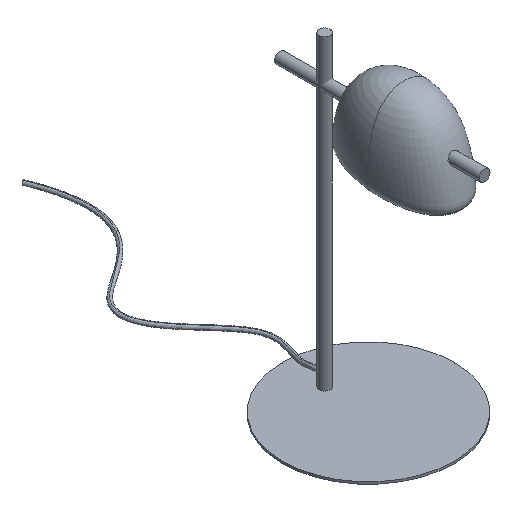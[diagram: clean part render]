
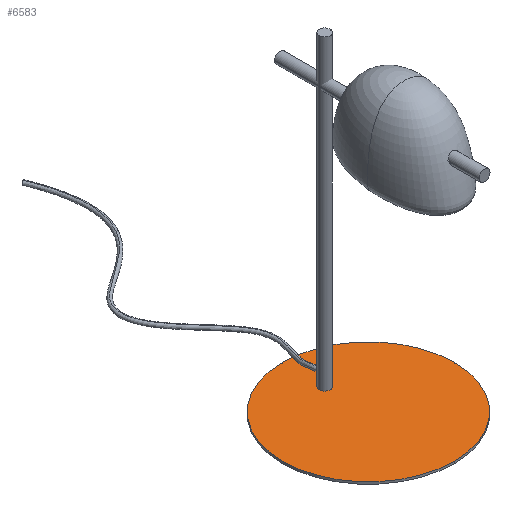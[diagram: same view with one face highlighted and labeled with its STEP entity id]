
A CAD part, isometric view. The second image highlights one B-rep face of the part: STEP entity #6583.
In plain terms, the highlighted planar face has unit normal (0, 0, 1).
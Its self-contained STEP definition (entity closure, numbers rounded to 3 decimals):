
#427 = CARTESIAN_POINT ( 'NONE',  ( 125., 0., 3. ) ) ;
#856 = EDGE_LOOP ( 'NONE', ( #7622, #6169, #1740 ) ) ;
#1215 = VERTEX_POINT ( 'NONE', #427 ) ;
#1469 = CARTESIAN_POINT ( 'NONE',  ( 0., 0., 3. ) ) ;
#1740 = ORIENTED_EDGE ( 'NONE', *, *, #3400, .T. ) ;
#1978 = CARTESIAN_POINT ( 'NONE',  ( 0., 0., 3. ) ) ;
#2488 = CARTESIAN_POINT ( 'NONE',  ( 0., 0., 3. ) ) ;
#2562 = CIRCLE ( 'NONE', #2905, 125. ) ;
#2905 = AXIS2_PLACEMENT_3D ( 'NONE', #1978, #7547, #3751 ) ;
#3400 = EDGE_CURVE ( 'NONE', #4657, #10018, #6401, .T. ) ;
#3614 = CARTESIAN_POINT ( 'NONE',  ( 0., -125., 3. ) ) ;
#3751 = DIRECTION ( 'NONE',  ( 0., -1., 0. ) ) ;
#3849 = EDGE_CURVE ( 'NONE', #1215, #4657, #2562, .T. ) ;
#4024 = CARTESIAN_POINT ( 'NONE',  ( -156.25, 156.25, 3. ) ) ;
#4657 = VERTEX_POINT ( 'NONE', #9057 ) ;
#4753 = DIRECTION ( 'NONE',  ( 1., 0., 0. ) ) ;
#5536 = FACE_OUTER_BOUND ( 'NONE', #856, .T. ) ;
#5626 = DIRECTION ( 'NONE',  ( 0., 0., 1. ) ) ;
#6169 = ORIENTED_EDGE ( 'NONE', *, *, #3849, .T. ) ;
#6267 = DIRECTION ( 'NONE',  ( 0., 0., 1. ) ) ;
#6401 = CIRCLE ( 'NONE', #9384, 125. ) ;
#6583 = ADVANCED_FACE ( 'NONE', ( #5536 ), #7968, .T. ) ;
#6903 = AXIS2_PLACEMENT_3D ( 'NONE', #2488, #5626, #7130 ) ;
#7130 = DIRECTION ( 'NONE',  ( 0., -1., 0. ) ) ;
#7547 = DIRECTION ( 'NONE',  ( 0., 0., 1. ) ) ;
#7622 = ORIENTED_EDGE ( 'NONE', *, *, #7857, .T. ) ;
#7857 = EDGE_CURVE ( 'NONE', #10018, #1215, #9393, .T. ) ;
#7968 = PLANE ( 'NONE',  #8554 ) ;
#8554 = AXIS2_PLACEMENT_3D ( 'NONE', #4024, #8700, #4753 ) ;
#8700 = DIRECTION ( 'NONE',  ( 0., 0., 1. ) ) ;
#9057 = CARTESIAN_POINT ( 'NONE',  ( 0., 125., 3. ) ) ;
#9384 = AXIS2_PLACEMENT_3D ( 'NONE', #1469, #6267, #9437 ) ;
#9393 = CIRCLE ( 'NONE', #6903, 125. ) ;
#9437 = DIRECTION ( 'NONE',  ( 0., 1., 0. ) ) ;
#10018 = VERTEX_POINT ( 'NONE', #3614 ) ;
